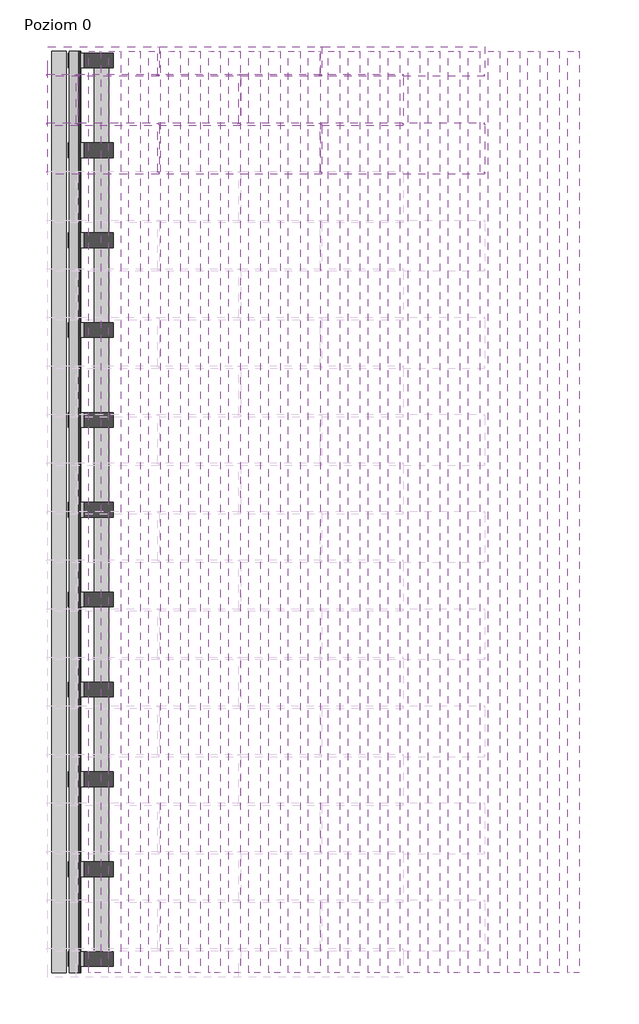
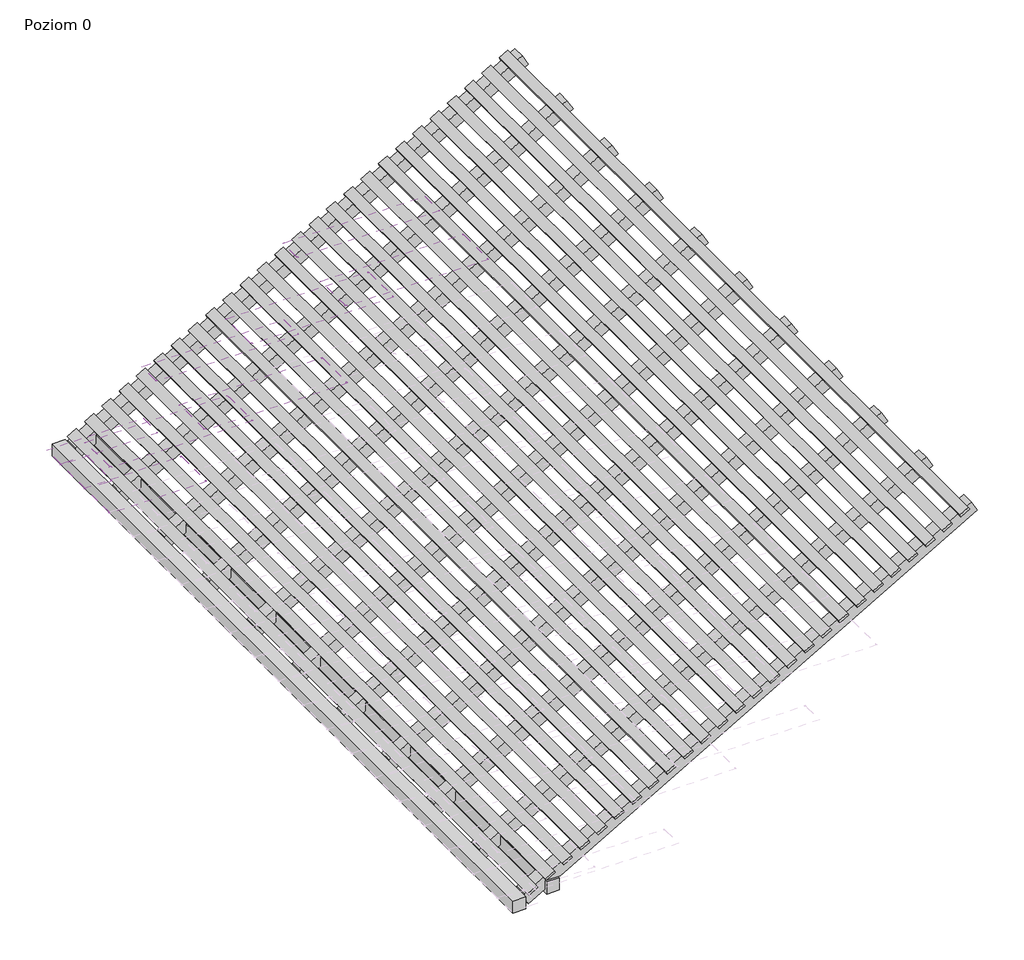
# One storey, part 4 of 4: 39 beams, 9 coverings.
"""IFC4 building model written with IfcOpenShell, lengths in millimetres."""

from ifc_helpers import new_model, si_unit, point, frame, frame_2d, origin, place, context, project, spatial, polyline, circle_curve, trimmed, segment, composite_curve, outline, extrude, transform, mapped, element, save
from components import beam_128x_30_c98de427, beam_160x_160_f767da69, beam_160x_160_39475e01, covering_053faf2b

model = new_model("IFC4")

# Units and contexts
model_context = context("Model", 3, world=origin())
ifc_project = project(units=[si_unit("LENGTHUNIT", "METRE", prefix="MILLI")], contexts=[model_context])

# Site, building, storey
site = spatial("IfcSite", under=ifc_project)
building = spatial("IfcBuilding", under=site)
storey = spatial("IfcBuildingStorey", under=building, Name="Poziom 0", Elevation=0.0)

# Beams
placement = place(None, origin())
beam_128x_30_shape = beam_128x_30_c98de427(model_context)
element("IfcBeam", 1, ObjectType="Belka drewniana : 128x 30", at=placement, inside=storey, context=model_context, shape_type="MappedRepresentation", body=[
    mapped(beam_128x_30_shape, transform((-4733.2671339, -3543.145213, 1161.4271033), x_axis=(0.0, -1.0, 0.0), y_axis=(0.5000000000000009, 0.0, -0.8660254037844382), z_axis=(0.8660254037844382, 0.0, 0.5000000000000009))),
])
element("IfcBeam", 2, ObjectType="Belka drewniana : 128x 30", at=placement, inside=storey, context=model_context, shape_type="MappedRepresentation", body=[
    mapped(beam_128x_30_shape, transform((-4516.7607829, -3543.145213, 1286.4271033), x_axis=(0.0, -1.0, 0.0), y_axis=(0.5000000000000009, 0.0, -0.8660254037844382), z_axis=(0.8660254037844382, 0.0, 0.5000000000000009))),
])
element("IfcBeam", 3, ObjectType="Belka drewniana : 128x 30", at=placement, inside=storey, context=model_context, shape_type="MappedRepresentation", body=[
    mapped(beam_128x_30_shape, transform((-4300.254432, -3543.145213, 1411.4271033), x_axis=(0.0, -1.0, 0.0), y_axis=(0.5000000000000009, 0.0, -0.8660254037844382), z_axis=(0.8660254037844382, 0.0, 0.5000000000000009))),
])
element("IfcBeam", 4, ObjectType="Belka drewniana : 128x 30", at=placement, inside=storey, context=model_context, shape_type="MappedRepresentation", body=[
    mapped(beam_128x_30_shape, transform((-4083.748081, -3543.145213, 1536.4271033), x_axis=(0.0, -1.0, 0.0), y_axis=(0.5000000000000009, 0.0, -0.8660254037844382), z_axis=(0.8660254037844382, 0.0, 0.5000000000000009))),
])
element("IfcBeam", 5, ObjectType="Belka drewniana : 128x 30", at=placement, inside=storey, context=model_context, shape_type="MappedRepresentation", body=[
    mapped(beam_128x_30_shape, transform((-3867.2417301, -3543.145213, 1661.4271033), x_axis=(0.0, -1.0, 0.0), y_axis=(0.5000000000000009, 0.0, -0.8660254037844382), z_axis=(0.8660254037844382, 0.0, 0.5000000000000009))),
])
element("IfcBeam", 6, ObjectType="Belka drewniana : 128x 30", at=placement, inside=storey, context=model_context, shape_type="MappedRepresentation", body=[
    mapped(beam_128x_30_shape, transform((-3650.7353791, -3543.145213, 1786.4271033), x_axis=(0.0, -1.0, 0.0), y_axis=(0.5000000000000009, 0.0, -0.8660254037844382), z_axis=(0.8660254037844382, 0.0, 0.5000000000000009))),
])
element("IfcBeam", 7, ObjectType="Belka drewniana : 128x 30", at=placement, inside=storey, context=model_context, shape_type="MappedRepresentation", body=[
    mapped(beam_128x_30_shape, transform((-3434.2290282, -3543.145213, 1911.4271033), x_axis=(0.0, -1.0, 0.0), y_axis=(0.5000000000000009, 0.0, -0.8660254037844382), z_axis=(0.8660254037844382, 0.0, 0.5000000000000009))),
])
element("IfcBeam", 8, ObjectType="Belka drewniana : 128x 30", at=placement, inside=storey, context=model_context, shape_type="MappedRepresentation", body=[
    mapped(beam_128x_30_shape, transform((-3217.7226773, -3543.145213, 2036.4271033), x_axis=(0.0, -1.0, 0.0), y_axis=(0.5000000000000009, 0.0, -0.8660254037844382), z_axis=(0.8660254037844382, 0.0, 0.5000000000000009))),
])
element("IfcBeam", 9, ObjectType="Belka drewniana : 128x 30", at=placement, inside=storey, context=model_context, shape_type="MappedRepresentation", body=[
    mapped(beam_128x_30_shape, transform((-3001.2163263, -3543.145213, 2161.4271033), x_axis=(0.0, -1.0, 0.0), y_axis=(0.5000000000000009, 0.0, -0.8660254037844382), z_axis=(0.8660254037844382, 0.0, 0.5000000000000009))),
])
element("IfcBeam", 10, ObjectType="Belka drewniana : 128x 30", at=placement, inside=storey, context=model_context, shape_type="MappedRepresentation", body=[
    mapped(beam_128x_30_shape, transform((-2784.7099754, -3543.145213, 2286.4271033), x_axis=(0.0, -1.0, 0.0), y_axis=(0.5000000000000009, 0.0, -0.8660254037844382), z_axis=(0.8660254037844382, 0.0, 0.5000000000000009))),
])
element("IfcBeam", 11, ObjectType="Belka drewniana : 128x 30", at=placement, inside=storey, context=model_context, shape_type="MappedRepresentation", body=[
    mapped(beam_128x_30_shape, transform((-2568.2036244, -3543.145213, 2411.4271033), x_axis=(0.0, -1.0, 0.0), y_axis=(0.5000000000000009, 0.0, -0.8660254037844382), z_axis=(0.8660254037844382, 0.0, 0.5000000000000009))),
])
element("IfcBeam", 12, ObjectType="Belka drewniana : 128x 30", at=placement, inside=storey, context=model_context, shape_type="MappedRepresentation", body=[
    mapped(beam_128x_30_shape, transform((-2351.6972735, -3543.145213, 2536.4271033), x_axis=(0.0, -1.0, 0.0), y_axis=(0.5000000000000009, 0.0, -0.8660254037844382), z_axis=(0.8660254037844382, 0.0, 0.5000000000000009))),
])
element("IfcBeam", 13, ObjectType="Belka drewniana : 128x 30", at=placement, inside=storey, context=model_context, shape_type="MappedRepresentation", body=[
    mapped(beam_128x_30_shape, transform((-2135.1909225, -3543.145213, 2661.4271033), x_axis=(0.0, -1.0, 0.0), y_axis=(0.5000000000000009, 0.0, -0.8660254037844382), z_axis=(0.8660254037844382, 0.0, 0.5000000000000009))),
])
element("IfcBeam", 14, ObjectType="Belka drewniana : 128x 30", at=placement, inside=storey, context=model_context, shape_type="MappedRepresentation", body=[
    mapped(beam_128x_30_shape, transform((-1918.6845716, -3543.145213, 2786.4271033), x_axis=(0.0, -1.0, 0.0), y_axis=(0.5000000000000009, 0.0, -0.8660254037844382), z_axis=(0.8660254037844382, 0.0, 0.5000000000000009))),
])
element("IfcBeam", 15, ObjectType="Belka drewniana : 128x 30", at=placement, inside=storey, context=model_context, shape_type="MappedRepresentation", body=[
    mapped(beam_128x_30_shape, transform((-1702.1782206, -3543.145213, 2911.4271033), x_axis=(0.0, -1.0, 0.0), y_axis=(0.5000000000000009, 0.0, -0.8660254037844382), z_axis=(0.8660254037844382, 0.0, 0.5000000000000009))),
])
element("IfcBeam", 16, ObjectType="Belka drewniana : 128x 30", at=placement, inside=storey, context=model_context, shape_type="MappedRepresentation", body=[
    mapped(beam_128x_30_shape, transform((-1485.6718697, -3543.145213, 3036.4271033), x_axis=(0.0, -1.0, 0.0), y_axis=(0.5000000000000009, 0.0, -0.8660254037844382), z_axis=(0.8660254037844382, 0.0, 0.5000000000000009))),
])
element("IfcBeam", 17, ObjectType="Belka drewniana : 128x 30", at=placement, inside=storey, context=model_context, shape_type="MappedRepresentation", body=[
    mapped(beam_128x_30_shape, transform((-1269.1655187, -3543.145213, 3161.4271033), x_axis=(0.0, -1.0, 0.0), y_axis=(0.5000000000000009, 0.0, -0.8660254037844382), z_axis=(0.8660254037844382, 0.0, 0.5000000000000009))),
])
element("IfcBeam", 18, ObjectType="Belka drewniana : 128x 30", at=placement, inside=storey, context=model_context, shape_type="MappedRepresentation", body=[
    mapped(beam_128x_30_shape, transform((-1052.6591678, -3543.145213, 3286.4271033), x_axis=(0.0, -1.0, 0.0), y_axis=(0.5000000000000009, 0.0, -0.8660254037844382), z_axis=(0.8660254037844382, 0.0, 0.5000000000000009))),
])
element("IfcBeam", 19, ObjectType="Belka drewniana : 128x 30", at=placement, inside=storey, context=model_context, shape_type="MappedRepresentation", body=[
    mapped(beam_128x_30_shape, transform((-836.1528168, -3543.145213, 3411.4271033), x_axis=(0.0, -1.0, 0.0), y_axis=(0.5000000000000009, 0.0, -0.8660254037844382), z_axis=(0.8660254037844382, 0.0, 0.5000000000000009))),
])
element("IfcBeam", 20, ObjectType="Belka drewniana : 128x 30", at=placement, inside=storey, context=model_context, shape_type="MappedRepresentation", body=[
    mapped(beam_128x_30_shape, transform((-619.6464659, -3543.145213, 3536.4271033), x_axis=(0.0, -1.0, 0.0), y_axis=(0.5000000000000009, 0.0, -0.8660254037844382), z_axis=(0.8660254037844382, 0.0, 0.5000000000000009))),
])
element("IfcBeam", 21, ObjectType="Belka drewniana : 128x 30", at=placement, inside=storey, context=model_context, shape_type="MappedRepresentation", body=[
    mapped(beam_128x_30_shape, transform((-403.140115, -3543.145213, 3661.4271033), x_axis=(0.0, -1.0, 0.0), y_axis=(0.5000000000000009, 0.0, -0.8660254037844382), z_axis=(0.8660254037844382, 0.0, 0.5000000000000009))),
])
element("IfcBeam", 22, ObjectType="Belka drewniana : 128x 30", at=placement, inside=storey, context=model_context, shape_type="MappedRepresentation", body=[
    mapped(beam_128x_30_shape, transform((-186.633764, -3543.145213, 3786.4271033), x_axis=(0.0, -1.0, 0.0), y_axis=(0.5000000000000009, 0.0, -0.8660254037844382), z_axis=(0.8660254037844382, 0.0, 0.5000000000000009))),
])
element("IfcBeam", 23, ObjectType="Belka drewniana : 128x 30", at=placement, inside=storey, context=model_context, shape_type="MappedRepresentation", body=[
    mapped(beam_128x_30_shape, transform((29.8725869, -3543.145213, 3911.4271033), x_axis=(0.0, -1.0, 0.0), y_axis=(0.5000000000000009, 0.0, -0.8660254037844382), z_axis=(0.8660254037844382, 0.0, 0.5000000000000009))),
])
element("IfcBeam", 24, ObjectType="Belka drewniana : 128x 30", at=placement, inside=storey, context=model_context, shape_type="MappedRepresentation", body=[
    mapped(beam_128x_30_shape, transform((246.3789379, -3543.145213, 4036.4271033), x_axis=(0.0, -1.0, 0.0), y_axis=(0.5000000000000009, 0.0, -0.8660254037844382), z_axis=(0.8660254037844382, 0.0, 0.5000000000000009))),
])
element("IfcBeam", 25, ObjectType="Belka drewniana : 128x 30", at=placement, inside=storey, context=model_context, shape_type="MappedRepresentation", body=[
    mapped(beam_128x_30_shape, transform((462.8852888, -3543.145213, 4161.4271033), x_axis=(0.0, -1.0, 0.0), y_axis=(0.5000000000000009, 0.0, -0.8660254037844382), z_axis=(0.8660254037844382, 0.0, 0.5000000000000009))),
])
element("IfcBeam", 26, ObjectType="Belka drewniana : 128x 30", at=placement, inside=storey, context=model_context, shape_type="MappedRepresentation", body=[
    mapped(beam_128x_30_shape, transform((679.3916398, -3543.145213, 4286.4271033), x_axis=(0.0, -1.0, 0.0), y_axis=(0.5000000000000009, 0.0, -0.8660254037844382), z_axis=(0.8660254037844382, 0.0, 0.5000000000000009))),
])
element("IfcBeam", 27, ObjectType="Belka drewniana : 160x 160", at=placement, inside=storey, context=model_context, shape_type="SweptSolid", body=[
    extrude(outline(polyline([(4200.0, 879.6955056), (4338.5640646, 799.6955056), (1102.9978213, -4804.469619), (1045.2627944, -4804.469619), (950.0, -4749.469619), (1069.2820323, -4542.8670786), (1180.0, -4542.8670786), (1180.0, -4351.0979332), (4200.0, 879.6955056)])), frame((0.0, -8582.2095918, 0.0), z_axis=(0.0, 1.0, 0.0), x_axis=(0.0, 0.0, 1.0)), (0.0, 0.0, 1.0), 160.0),
])
element("IfcBeam", 28, ObjectType="Belka drewniana : 160x 160", at=placement, inside=storey, context=model_context, shape_type="SweptSolid", body=[
    extrude(outline(polyline([(4200.0, 879.6955056), (4338.5640646, 799.6955056), (1102.9978213, -4804.469619), (1045.2627944, -4804.469619), (950.0, -4749.469619), (1069.2820323, -4542.8670786), (1180.0, -4542.8670786), (1180.0, -4351.0979332), (4200.0, 879.6955056)])), frame((0.0, -7607.1095918, 0.0), z_axis=(0.0, 1.0, 0.0), x_axis=(0.0, 0.0, 1.0)), (0.0, 0.0, 1.0), 160.0),
])
element("IfcBeam", 29, ObjectType="Belka drewniana : 160x 160", at=placement, inside=storey, context=model_context, shape_type="SweptSolid", body=[
    extrude(outline(polyline([(4200.0, 879.6955056), (4338.5640646, 799.6955056), (1102.9978213, -4804.469619), (1045.2627944, -4804.469619), (950.0, -4749.469619), (1069.2820323, -4542.8670786), (1180.0, -4542.8670786), (1180.0, -4351.0979332), (4200.0, 879.6955056)])), frame((0.0, -6632.0095918, 0.0), z_axis=(0.0, 1.0, 0.0), x_axis=(0.0, 0.0, 1.0)), (0.0, 0.0, 1.0), 160.0),
])
element("IfcBeam", 30, ObjectType="Belka drewniana : 160x 160", at=placement, inside=storey, context=model_context, shape_type="SweptSolid", body=[
    extrude(outline(polyline([(4200.0, 879.6955056), (4338.5640646, 799.6955056), (1102.9978213, -4804.469619), (1045.2627944, -4804.469619), (950.0, -4749.469619), (1069.2820323, -4542.8670786), (1180.0, -4542.8670786), (1180.0, -4351.0979332), (4200.0, 879.6955056)])), frame((0.0, -5656.9095918, 0.0), z_axis=(0.0, 1.0, 0.0), x_axis=(0.0, 0.0, 1.0)), (0.0, 0.0, 1.0), 160.0),
])
element("IfcBeam", 31, ObjectType="Belka drewniana : 160x 160", at=placement, inside=storey, context=model_context, shape_type="SweptSolid", body=[
    extrude(outline(polyline([(4200.0, 879.6955056), (4338.5640646, 799.6955056), (1102.9978213, -4804.469619), (1045.2627944, -4804.469619), (950.0, -4749.469619), (1069.2820323, -4542.8670786), (1180.0, -4542.8670786), (1180.0, -4351.0979332), (4200.0, 879.6955056)])), frame((0.0, -4681.8095918, 0.0), z_axis=(0.0, 1.0, 0.0), x_axis=(0.0, 0.0, 1.0)), (0.0, 0.0, 1.0), 160.0),
])
element("IfcBeam", 32, ObjectType="Belka drewniana : 160x 160", at=placement, inside=storey, context=model_context, shape_type="SweptSolid", body=[
    extrude(outline(polyline([(4200.0, 879.6955056), (4338.5640646, 799.6955056), (1102.9978213, -4804.469619), (1045.2627944, -4804.469619), (950.0, -4749.469619), (1069.2820323, -4542.8670786), (1180.0, -4542.8670786), (1180.0, -4351.0979332), (4200.0, 879.6955056)])), frame((0.0, -3706.7095918, 0.0), z_axis=(0.0, 1.0, 0.0), x_axis=(0.0, 0.0, 1.0)), (0.0, 0.0, 1.0), 160.0),
])
element("IfcBeam", 33, ObjectType="Belka drewniana : 160x 160", at=placement, inside=storey, context=model_context, shape_type="SweptSolid", body=[
    extrude(outline(polyline([(4200.0, 879.6955056), (4338.5640646, 799.6955056), (1102.9978213, -4804.469619), (1045.2627944, -4804.469619), (950.0, -4749.469619), (1069.2820323, -4542.8670786), (1180.0, -4542.8670786), (1180.0, -4351.0979332), (4200.0, 879.6955056)])), frame((0.0, -2731.6095918, 0.0), z_axis=(0.0, 1.0, 0.0), x_axis=(0.0, 0.0, 1.0)), (0.0, 0.0, 1.0), 160.0),
])
element("IfcBeam", 34, ObjectType="Belka drewniana : 160x 160", at=placement, inside=storey, context=model_context, shape_type="SweptSolid", body=[
    extrude(outline(polyline([(4200.0, 879.6955056), (4338.5640646, 799.6955056), (1102.9978213, -4804.469619), (1045.2627944, -4804.469619), (950.0, -4749.469619), (1069.2820323, -4542.8670786), (1180.0, -4542.8670786), (1180.0, -4351.0979332), (4200.0, 879.6955056)])), frame((0.0, -1756.5095918, 0.0), z_axis=(0.0, 1.0, 0.0), x_axis=(0.0, 0.0, 1.0)), (0.0, 0.0, 1.0), 160.0),
])
element("IfcBeam", 35, ObjectType="Belka drewniana : 160x 160", at=placement, inside=storey, context=model_context, shape_type="SweptSolid", body=[
    extrude(outline(polyline([(4200.0, 879.6955056), (4338.5640646, 799.6955056), (1102.9978213, -4804.469619), (1045.2627944, -4804.469619), (950.0, -4749.469619), (1069.2820323, -4542.8670786), (1180.0, -4542.8670786), (1180.0, -4351.0979332), (4200.0, 879.6955056)])), frame((0.0, -781.4095918, 0.0), z_axis=(0.0, 1.0, 0.0), x_axis=(0.0, 0.0, 1.0)), (0.0, 0.0, 1.0), 160.0),
])
element("IfcBeam", 36, ObjectType="Belka drewniana : 160x 160", at=placement, inside=storey, context=model_context, shape_type="SweptSolid", body=[
    extrude(outline(polyline([(4200.0, 879.6955056), (4338.5640646, 799.6955056), (1102.9978213, -4804.469619), (1045.2627944, -4804.469619), (950.0, -4749.469619), (1069.2820323, -4542.8670786), (1180.0, -4542.8670786), (1180.0, -4351.0979332), (4200.0, 879.6955056)])), frame((0.0, 193.6904082, 0.0), z_axis=(0.0, 1.0, 0.0), x_axis=(0.0, 0.0, 1.0)), (0.0, 0.0, 1.0), 160.0),
])
element("IfcBeam", 37, ObjectType="Belka drewniana : 160x 160", at=placement, inside=storey, context=model_context, shape_type="SweptSolid", body=[
    extrude(outline(polyline([(4200.0, 879.6955056), (4338.5640646, 799.6955056), (1102.9978213, -4804.469619), (1045.2627944, -4804.469619), (950.0, -4749.469619), (1069.2820323, -4542.8670786), (1180.0, -4542.8670786), (1180.0, -4351.0979332), (4200.0, 879.6955056)])), frame((0.0, 1168.7904082, 0.0), z_axis=(0.0, 1.0, 0.0), x_axis=(0.0, 0.0, 1.0)), (0.0, 0.0, 1.0), 160.0),
])
beam_160x_160_shape = beam_160x_160_f767da69(model_context)
element("IfcBeam", 38, ObjectType="Belka drewniana : 160x 160", at=placement, inside=storey, context=model_context, shape_type="MappedRepresentation", body=[
    mapped(beam_160x_160_shape, transform((-4442.8670786, -3651.2095918, 1080.0), x_axis=(0.0, 1.0, 0.0), y_axis=(-1.0, 0.0, 0.0), z_axis=(0.0, 0.0, 1.0))),
])
beam_160x_160_2_shape = beam_160x_160_39475e01(model_context)
element("IfcBeam", 39, ObjectType="Belka drewniana : 160x 160", at=placement, inside=storey, context=model_context, shape_type="MappedRepresentation", body=[
    mapped(beam_160x_160_2_shape, transform((-4904.469619, -3651.2095918, 1030.3720762), x_axis=(0.0, 1.0, 0.0), y_axis=(-1.0, 0.0, 0.0), z_axis=(0.0, 0.0, 1.0))),
])

# Coverings
element("IfcCovering", 40, ObjectType="Zintegrowany dach fotowoltaiczny FIT L.P (pojedynczy arkusz) : Zintegrowany dach fotowoltaiczny FIT L.P (pojedynczy arkusz)", at=placement, inside=storey, context=model_context, shape_type="SweptSolid", body=[
    extrude(outline(composite_curve([segment(polyline([(288.0882052, -764.3254516), (270.8006701, -764.3254516)]), True, "CONTINUOUS"), segment(trimmed(circle_curve(frame_2d((270.8006701, -767.1254516)), 2.8), [point((270.8006701, -764.3254516))], [point((268.0006701, -767.1254516))], True, "CARTESIAN"), True, "CONTINUOUS"), segment(polyline([(268.0006701, -767.1254516), (268.0006701, -784.9194843)]), True, "CONTINUOUS"), segment(trimmed(circle_curve(frame_2d((266.3873432, -784.7092324)), 1.6269694), [point((268.0006701, -784.9194843))], [point((264.9716419, -785.5109926))], False, "CARTESIAN"), True, "CONTINUOUS"), segment(polyline([(264.9716419, -785.5109926), (259.5147607, -772.9478756)]), True, "CONTINUOUS"), segment(trimmed(circle_curve(frame_2d((261.4782052, -771.7500084)), 2.3), [point((259.5147607, -772.9478756))], [point((260.424286, -769.705686))], False, "CARTESIAN"), True, "CONTINUOUS"), segment(polyline([(260.424286, -769.705686), (262.0969852, -769.0301624)]), True, "CONTINUOUS"), segment(trimmed(circle_curve(frame_2d((261.7598094, -768.195264)), 0.9004126), [point((262.0969852, -769.0301624))], [point((262.5492444, -767.7622108))], True, "CARTESIAN"), True, "CONTINUOUS"), segment(polyline([(262.5492444, -767.7622108), (260.6639723, -764.3254516), (-231.6728378, -764.3254516), (-233.6728378, -766.3254516), (-256.2638552, -766.3254516)]), True, "CONTINUOUS"), segment(trimmed(circle_curve(frame_2d((-256.2638552, -767.1498016)), 0.82435), [point((-256.2638552, -766.3254516))], [point((-257.0882052, -767.1498016))], True, "CARTESIAN"), True, "CONTINUOUS"), segment(polyline([(-257.0882052, -767.1498016), (-257.0882052, -785.8254516)]), True, "CONTINUOUS"), segment(trimmed(circle_curve(frame_2d((-259.0882052, -785.8254516)), 2.0), [point((-257.0882052, -785.8254516))], [point((-259.0882052, -787.8254516))], False, "CARTESIAN"), True, "CONTINUOUS"), segment(polyline([(-259.0882052, -787.8254516), (-267.9117948, -787.8254516)]), True, "CONTINUOUS"), segment(trimmed(circle_curve(frame_2d((-267.9117948, -785.8254516)), 2.0), [point((-267.9117948, -787.8254516))], [point((-269.9117948, -785.8254516))], False, "CARTESIAN"), True, "CONTINUOUS"), segment(polyline([(-269.9117948, -785.8254516), (-269.9117948, -771.7500084)]), True, "CONTINUOUS"), segment(trimmed(circle_curve(frame_2d((-266.1117948, -771.7500084)), 3.8), [point((-269.9117948, -771.7500084))], [point((-267.8014079, -768.3463036))], False, "CARTESIAN"), True, "CONTINUOUS"), segment(trimmed(circle_curve(frame_2d((-268.3170787, -767.3074911)), 1.1597619), [point((-267.8014079, -768.3463036))], [point((-267.171889, -767.1242207))], True, "CARTESIAN"), True, "CONTINUOUS"), segment(polyline([(-267.171889, -767.1242207), (-268.0083048, -765.5994754), (-267.1315567, -765.1185255), (-266.299575, -766.6351876)]), True, "CONTINUOUS"), segment(trimmed(circle_curve(frame_2d((-267.8170787, -767.3074911)), 1.6597619), [point((-266.299575, -766.6351876))], [point((-267.0790904, -768.7941595))], False, "CARTESIAN"), True, "CONTINUOUS"), segment(trimmed(circle_curve(frame_2d((-265.6117948, -771.7500084)), 3.3), [point((-267.0790904, -768.7941595))], [point((-268.9117948, -771.7500084))], True, "CARTESIAN"), True, "CONTINUOUS"), segment(polyline([(-268.9117948, -771.7500084), (-268.9117948, -785.3254516)]), True, "CONTINUOUS"), segment(trimmed(circle_curve(frame_2d((-267.4117948, -785.3254516)), 1.5), [point((-268.9117948, -785.3254516))], [point((-267.4117948, -786.8254516))], True, "CARTESIAN"), True, "CONTINUOUS"), segment(polyline([(-267.4117948, -786.8254516), (-259.5882052, -786.8254516)]), True, "CONTINUOUS"), segment(trimmed(circle_curve(frame_2d((-259.5882052, -785.3254516)), 1.5), [point((-259.5882052, -786.8254516))], [point((-258.0882052, -785.3254516))], True, "CARTESIAN"), True, "CONTINUOUS"), segment(polyline([(-258.0882052, -785.3254516), (-258.0882052, -767.0618312)]), True, "CONTINUOUS"), segment(trimmed(circle_curve(frame_2d((-256.2893299, -767.1254516)), 1.8), [point((-258.0882052, -767.0618312))], [point((-256.2893299, -765.3254516))], False, "CARTESIAN"), True, "CONTINUOUS"), segment(polyline([(-256.2893299, -765.3254516), (-234.0870514, -765.3254516), (-232.0870514, -763.3254516), (260.3034181, -763.3254516)]), True, "CONTINUOUS"), segment(trimmed(circle_curve(frame_2d((260.0800912, -765.3129437)), 2.0), [point((260.3034181, -763.3254516))], [point((261.7119395, -764.1566258))], False, "CARTESIAN"), True, "CONTINUOUS"), segment(polyline([(261.7119395, -764.1566258), (263.6966367, -767.774632)]), True, "CONTINUOUS"), segment(trimmed(circle_curve(frame_2d((262.4688276, -768.4481602)), 1.4004126), [point((263.6966367, -767.774632))], [point((262.9932374, -769.7466784))], False, "CARTESIAN"), True, "CONTINUOUS"), segment(polyline([(262.9932374, -769.7466784), (260.8475944, -770.6132015)]), True, "CONTINUOUS"), segment(trimmed(circle_curve(frame_2d((261.4782052, -771.7500084)), 1.3), [point((260.8475944, -770.6132015))], [point((260.4005072, -772.4770346))], True, "CARTESIAN"), True, "CONTINUOUS"), segment(polyline([(260.4005072, -772.4770346), (265.8628688, -785.0527688)]), True, "CONTINUOUS"), segment(trimmed(circle_curve(frame_2d((266.3873432, -784.7092324)), 0.6269694), [point((265.8628688, -785.0527688))], [point((267.0006701, -784.8393124))], True, "CARTESIAN"), True, "CONTINUOUS"), segment(polyline([(267.0006701, -784.8393124), (267.0006701, -767.1254516)]), True, "CONTINUOUS"), segment(trimmed(circle_curve(frame_2d((270.8006701, -767.1254516)), 3.8), [point((267.0006701, -767.1254516))], [point((270.8006701, -763.3254516))], False, "CARTESIAN"), True, "CONTINUOUS"), segment(polyline([(270.8006701, -763.3254516), (288.0882052, -763.3254516), (288.0882052, -764.3254516)]), True, "CONTINUOUS")], self_intersect=False)), frame((-4646.3009837, 301.2904082, 351.3905312), z_axis=(0.8660254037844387, 0.0, 0.5), x_axis=(0.0, -1.0, 0.0)), (0.0, 0.0, 1.0), 1396.4773133),
])
element("IfcCovering", 41, ObjectType="Zintegrowany dach fotowoltaiczny FIT L.P (pojedynczy arkusz) : Zintegrowany dach fotowoltaiczny FIT L.P (pojedynczy arkusz)", at=placement, inside=storey, context=model_context, shape_type="SweptSolid", body=[
    extrude(outline(composite_curve([segment(polyline([(288.0882052, -234.3179044), (270.8006701, -234.3179044)]), True, "CONTINUOUS"), segment(trimmed(circle_curve(frame_2d((270.8006701, -237.1179045)), 2.8), [point((270.8006701, -234.3179044))], [point((268.0006701, -237.1179045))], True, "CARTESIAN"), True, "CONTINUOUS"), segment(polyline([(268.0006701, -237.1179045), (268.0006701, -254.9119372)]), True, "CONTINUOUS"), segment(trimmed(circle_curve(frame_2d((266.3873432, -254.7016853)), 1.6269694), [point((268.0006701, -254.9119372))], [point((264.9716419, -255.5034454))], False, "CARTESIAN"), True, "CONTINUOUS"), segment(polyline([(264.9716419, -255.5034454), (259.5147607, -242.9403285)]), True, "CONTINUOUS"), segment(trimmed(circle_curve(frame_2d((261.4782052, -241.7424613)), 2.3), [point((259.5147607, -242.9403285))], [point((260.424286, -239.6981389))], False, "CARTESIAN"), True, "CONTINUOUS"), segment(polyline([(260.424286, -239.6981389), (262.0969852, -239.0226153)]), True, "CONTINUOUS"), segment(trimmed(circle_curve(frame_2d((261.7598094, -238.1877169)), 0.9004126), [point((262.0969852, -239.0226153))], [point((262.5492444, -237.7546636))], True, "CARTESIAN"), True, "CONTINUOUS"), segment(polyline([(262.5492444, -237.7546636), (260.6639723, -234.3179044), (-231.6728378, -234.3179044), (-233.6728378, -236.3179044), (-256.2638552, -236.3179044)]), True, "CONTINUOUS"), segment(trimmed(circle_curve(frame_2d((-256.2638552, -237.1422545)), 0.82435), [point((-256.2638552, -236.3179044))], [point((-257.0882052, -237.1422545))], True, "CARTESIAN"), True, "CONTINUOUS"), segment(polyline([(-257.0882052, -237.1422545), (-257.0882052, -255.8179044)]), True, "CONTINUOUS"), segment(trimmed(circle_curve(frame_2d((-259.0882052, -255.8179044)), 2.0), [point((-257.0882052, -255.8179044))], [point((-259.0882052, -257.8179044))], False, "CARTESIAN"), True, "CONTINUOUS"), segment(polyline([(-259.0882052, -257.8179044), (-267.9117948, -257.8179044)]), True, "CONTINUOUS"), segment(trimmed(circle_curve(frame_2d((-267.9117948, -255.8179044)), 2.0), [point((-267.9117948, -257.8179044))], [point((-269.9117948, -255.8179044))], False, "CARTESIAN"), True, "CONTINUOUS"), segment(polyline([(-269.9117948, -255.8179044), (-269.9117948, -241.7424613)]), True, "CONTINUOUS"), segment(trimmed(circle_curve(frame_2d((-266.1117948, -241.7424613)), 3.8), [point((-269.9117948, -241.7424613))], [point((-267.8014079, -238.3387564))], False, "CARTESIAN"), True, "CONTINUOUS"), segment(trimmed(circle_curve(frame_2d((-268.3170787, -237.2999439)), 1.1597619), [point((-267.8014079, -238.3387564))], [point((-267.171889, -237.1166736))], True, "CARTESIAN"), True, "CONTINUOUS"), segment(polyline([(-267.171889, -237.1166736), (-268.0083048, -235.5919282), (-267.1315567, -235.1109783), (-266.299575, -236.6276405)]), True, "CONTINUOUS"), segment(trimmed(circle_curve(frame_2d((-267.8170787, -237.2999439)), 1.6597619), [point((-266.299575, -236.6276405))], [point((-267.0790904, -238.7866123))], False, "CARTESIAN"), True, "CONTINUOUS"), segment(trimmed(circle_curve(frame_2d((-265.6117948, -241.7424613)), 3.3), [point((-267.0790904, -238.7866123))], [point((-268.9117948, -241.7424613))], True, "CARTESIAN"), True, "CONTINUOUS"), segment(polyline([(-268.9117948, -241.7424613), (-268.9117948, -255.3179044)]), True, "CONTINUOUS"), segment(trimmed(circle_curve(frame_2d((-267.4117948, -255.3179044)), 1.5), [point((-268.9117948, -255.3179044))], [point((-267.4117948, -256.8179044))], True, "CARTESIAN"), True, "CONTINUOUS"), segment(polyline([(-267.4117948, -256.8179044), (-259.5882052, -256.8179044)]), True, "CONTINUOUS"), segment(trimmed(circle_curve(frame_2d((-259.5882052, -255.3179044)), 1.5), [point((-259.5882052, -256.8179044))], [point((-258.0882052, -255.3179044))], True, "CARTESIAN"), True, "CONTINUOUS"), segment(polyline([(-258.0882052, -255.3179044), (-258.0882052, -237.0542841)]), True, "CONTINUOUS"), segment(trimmed(circle_curve(frame_2d((-256.2893299, -237.1179045)), 1.8), [point((-258.0882052, -237.0542841))], [point((-256.2893299, -235.3179044))], False, "CARTESIAN"), True, "CONTINUOUS"), segment(polyline([(-256.2893299, -235.3179044), (-234.0870514, -235.3179044), (-232.0870514, -233.3179044), (260.3034181, -233.3179044)]), True, "CONTINUOUS"), segment(trimmed(circle_curve(frame_2d((260.0800912, -235.3053966)), 2.0), [point((260.3034181, -233.3179044))], [point((261.7119395, -234.1490787))], False, "CARTESIAN"), True, "CONTINUOUS"), segment(polyline([(261.7119395, -234.1490787), (263.6966367, -237.7670849)]), True, "CONTINUOUS"), segment(trimmed(circle_curve(frame_2d((262.4688276, -238.440613)), 1.4004126), [point((263.6966367, -237.7670849))], [point((262.9932374, -239.7391313))], False, "CARTESIAN"), True, "CONTINUOUS"), segment(polyline([(262.9932374, -239.7391313), (260.8475944, -240.6056544)]), True, "CONTINUOUS"), segment(trimmed(circle_curve(frame_2d((261.4782052, -241.7424613)), 1.3), [point((260.8475944, -240.6056544))], [point((260.4005072, -242.4694875))], True, "CARTESIAN"), True, "CONTINUOUS"), segment(polyline([(260.4005072, -242.4694875), (265.8628688, -255.0452217)]), True, "CONTINUOUS"), segment(trimmed(circle_curve(frame_2d((266.3873432, -254.7016853)), 0.6269694), [point((265.8628688, -255.0452217))], [point((267.0006701, -254.8317652))], True, "CARTESIAN"), True, "CONTINUOUS"), segment(polyline([(267.0006701, -254.8317652), (267.0006701, -237.1179045)]), True, "CONTINUOUS"), segment(trimmed(circle_curve(frame_2d((270.8006701, -237.1179045)), 3.8), [point((267.0006701, -237.1179045))], [point((270.8006701, -233.3179044))], False, "CARTESIAN"), True, "CONTINUOUS"), segment(polyline([(270.8006701, -233.3179044), (288.0882052, -233.3179044), (288.0882052, -234.3179044)]), True, "CONTINUOUS")], self_intersect=False)), frame((-4911.3047573, 828.2904082, 810.3905312), z_axis=(0.8660254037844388, 0.0, 0.4999999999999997), x_axis=(0.0, -1.0, 0.0)), (0.0, 0.0, 1.0), 376.4773133),
])
element("IfcCovering", 42, ObjectType="Zintegrowany dach fotowoltaiczny FIT L.P (pojedynczy arkusz) : Zintegrowany dach fotowoltaiczny FIT L.P (pojedynczy arkusz)", at=placement, inside=storey, context=model_context, shape_type="SweptSolid", body=[
    extrude(outline(composite_curve([segment(polyline([(-186.995, -764.3254516), (-186.995, -763.3254516), (117.6084181, -763.3254516)]), True, "CONTINUOUS"), segment(trimmed(circle_curve(frame_2d((117.3850912, -765.3129437)), 2.0), [point((117.6084181, -763.3254516))], [point((119.0169395, -764.1566258))], False, "CARTESIAN"), True, "CONTINUOUS"), segment(polyline([(119.0169395, -764.1566258), (121.0016367, -767.774632)]), True, "CONTINUOUS"), segment(trimmed(circle_curve(frame_2d((119.7738276, -768.4481602)), 1.4004126), [point((121.0016367, -767.774632))], [point((120.2982374, -769.7466784))], False, "CARTESIAN"), True, "CONTINUOUS"), segment(polyline([(120.2982374, -769.7466784), (118.1525944, -770.6132015)]), True, "CONTINUOUS"), segment(trimmed(circle_curve(frame_2d((118.7832052, -771.7500084)), 1.3), [point((118.1525944, -770.6132015))], [point((117.7055072, -772.4770346))], True, "CARTESIAN"), True, "CONTINUOUS"), segment(polyline([(117.7055072, -772.4770346), (123.1678688, -785.0527688)]), True, "CONTINUOUS"), segment(trimmed(circle_curve(frame_2d((123.6923432, -784.7092324)), 0.6269694), [point((123.1678688, -785.0527688))], [point((124.3056701, -784.8393124))], True, "CARTESIAN"), True, "CONTINUOUS"), segment(polyline([(124.3056701, -784.8393124), (124.3056701, -767.1254516)]), True, "CONTINUOUS"), segment(trimmed(circle_curve(frame_2d((128.1056701, -767.1254516)), 3.8), [point((124.3056701, -767.1254516))], [point((128.1056701, -763.3254516))], False, "CARTESIAN"), True, "CONTINUOUS"), segment(polyline([(128.1056701, -763.3254516), (136.195, -763.3254516), (136.195, -764.3254516), (128.1056701, -764.3254516)]), True, "CONTINUOUS"), segment(trimmed(circle_curve(frame_2d((128.1056701, -767.1254516)), 2.8), [point((128.1056701, -764.3254516))], [point((125.3056701, -767.1254516))], True, "CARTESIAN"), True, "CONTINUOUS"), segment(polyline([(125.3056701, -767.1254516), (125.3056701, -784.9194843)]), True, "CONTINUOUS"), segment(trimmed(circle_curve(frame_2d((123.6923432, -784.7092324)), 1.6269694), [point((125.3056701, -784.9194843))], [point((122.2766419, -785.5109926))], False, "CARTESIAN"), True, "CONTINUOUS"), segment(polyline([(122.2766419, -785.5109926), (116.8197607, -772.9478756)]), True, "CONTINUOUS"), segment(trimmed(circle_curve(frame_2d((118.7832052, -771.7500084)), 2.3), [point((116.8197607, -772.9478756))], [point((117.729286, -769.705686))], False, "CARTESIAN"), True, "CONTINUOUS"), segment(polyline([(117.729286, -769.705686), (119.4019852, -769.0301624)]), True, "CONTINUOUS"), segment(trimmed(circle_curve(frame_2d((119.0648094, -768.195264)), 0.9004126), [point((119.4019852, -769.0301624))], [point((119.8542444, -767.7622108))], True, "CARTESIAN"), True, "CONTINUOUS"), segment(polyline([(119.8542444, -767.7622108), (117.9689723, -764.3254516), (-186.995, -764.3254516)]), True, "CONTINUOUS")], self_intersect=False)), frame((-4646.3009837, 1212.5954082, 351.3905312), z_axis=(0.8660254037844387, 0.0, 0.49999999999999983), x_axis=(0.0, -1.0, 0.0)), (0.0, 0.0, 1.0), 1396.4773133),
])
element("IfcCovering", 43, ObjectType="Zintegrowany dach fotowoltaiczny FIT L.P (pojedynczy arkusz) : Zintegrowany dach fotowoltaiczny FIT L.P (pojedynczy arkusz)", at=placement, inside=storey, context=model_context, shape_type="SweptSolid", body=[
    extrude(outline(composite_curve([segment(trimmed(circle_curve(frame_2d((0.0, -2.8)), 2.8), [point((0.0, 0.0))], [point((-2.8, -2.8))], True, "CARTESIAN"), True, "CONTINUOUS"), segment(polyline([(-2.8, -2.8), (-2.8, -20.5940327)]), True, "CONTINUOUS"), segment(trimmed(circle_curve(frame_2d((-4.4133269, -20.3837808)), 1.6269694), [point((-2.8, -20.5940327))], [point((-5.8290282, -21.185541))], False, "CARTESIAN"), True, "CONTINUOUS"), segment(polyline([(-5.8290282, -21.185541), (-11.2859094, -8.622424)]), True, "CONTINUOUS"), segment(trimmed(circle_curve(frame_2d((-9.3224649, -7.4245569)), 2.3), [point((-11.2859094, -8.622424))], [point((-10.3763841, -5.3802344))], False, "CARTESIAN"), True, "CONTINUOUS"), segment(polyline([(-10.3763841, -5.3802344), (-8.7036849, -4.7047108)]), True, "CONTINUOUS"), segment(trimmed(circle_curve(frame_2d((-9.0408607, -3.8698124)), 0.9004126), [point((-8.7036849, -4.7047108))], [point((-8.2514257, -3.4367591))], True, "CARTESIAN"), True, "CONTINUOUS"), segment(polyline([(-8.2514257, -3.4367591), (-10.1366978, 0.0), (-315.1006701, 0.0), (-315.1006701, 1.0), (-10.497252, 1.0)]), True, "CONTINUOUS"), segment(trimmed(circle_curve(frame_2d((-10.7205789, -0.9874922)), 2.0), [point((-10.497252, 1.0))], [point((-9.0887306, 0.1688258))], False, "CARTESIAN"), True, "CONTINUOUS"), segment(polyline([(-9.0887306, 0.1688258), (-7.1040334, -3.4491804)]), True, "CONTINUOUS"), segment(trimmed(circle_curve(frame_2d((-8.3318425, -4.1227085)), 1.4004126), [point((-7.1040334, -3.4491804))], [point((-7.8074327, -5.4212269))], False, "CARTESIAN"), True, "CONTINUOUS"), segment(polyline([(-7.8074327, -5.4212269), (-9.9530757, -6.28775)]), True, "CONTINUOUS"), segment(trimmed(circle_curve(frame_2d((-9.3224649, -7.4245569)), 1.3), [point((-9.9530757, -6.28775))], [point((-10.4001629, -8.151583))], True, "CARTESIAN"), True, "CONTINUOUS"), segment(polyline([(-10.4001629, -8.151583), (-4.9378013, -20.7273172)]), True, "CONTINUOUS"), segment(trimmed(circle_curve(frame_2d((-4.4133269, -20.3837808)), 0.6269694), [point((-4.9378013, -20.7273172))], [point((-3.8, -20.5138607))], True, "CARTESIAN"), True, "CONTINUOUS"), segment(polyline([(-3.8, -20.5138607), (-3.8, -2.8)]), True, "CONTINUOUS"), segment(trimmed(circle_curve(frame_2d((0.0, -2.8)), 3.8), [point((-3.8, -2.8))], [point((0.0, 1.0))], False, "CARTESIAN"), True, "CONTINUOUS"), segment(polyline([(0.0, 1.0), (8.0893299, 1.0), (8.0893299, 0.0), (0.0, 0.0)]), True, "CONTINUOUS")], self_intersect=False)), frame((-3819.0788804, 1084.4897381, 1711.5544457), z_axis=(0.8660254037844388, 0.0, 0.4999999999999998), x_axis=(0.0, -1.0, 0.0)), (0.0, 0.0, 1.0), 2040.0),
    extrude(outline(composite_curve([segment(polyline([(28.1680323, -535.9799253), (40.9033235, -530.4482589)]), True, "CONTINUOUS"), segment(trimmed(circle_curve(frame_2d((41.6303496, -531.525957)), 1.3), [point((40.9033235, -530.4482589))], [point((42.7671565, -530.8953461))], False, "CARTESIAN"), True, "CONTINUOUS"), segment(polyline([(42.7671565, -530.8953461), (43.9725969, -533.8801997)]), True, "CONTINUOUS"), segment(trimmed(circle_curve(frame_2d((44.6041589, -533.6251419)), 0.6811204), [point((43.9725969, -533.8801997))], [point((44.9317436, -534.2223129))], True, "CARTESIAN"), True, "CONTINUOUS"), segment(polyline([(44.9317436, -534.2223129), (49.9999999, -531.442065), (49.9999999, -225.6117948), (50.9999999, -225.6117948), (50.9999999, -530.8500476)]), True, "CONTINUOUS"), segment(trimmed(circle_curve(frame_2d((48.9999999, -530.8500476)), 2.0), [point((50.9999999, -530.8500476))], [point((49.9618997, -532.6035438))], False, "CARTESIAN"), True, "CONTINUOUS"), segment(polyline([(49.9618997, -532.6035438), (45.1357072, -535.2510049)]), True, "CONTINUOUS"), segment(trimmed(circle_curve(frame_2d((44.462179, -534.0231958)), 1.4004126), [point((45.1357072, -535.2510049))], [point((43.1636607, -534.5476056))], False, "CARTESIAN"), True, "CONTINUOUS"), segment(polyline([(43.1636607, -534.5476056), (41.792464, -531.152314), (28.7259873, -536.8278332)]), True, "CONTINUOUS"), segment(trimmed(circle_curve(frame_2d((28.5207601, -536.3553487)), 0.5151308), [point((28.7259873, -536.8278332))], [point((28.1680323, -535.9799253))], False, "CARTESIAN"), True, "CONTINUOUS")], self_intersect=False)), frame((-3860.8993885, 1625.202203, 1743.9896904), z_axis=(0.8660254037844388, 0.0, 0.4999999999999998), x_axis=(0.4999999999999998, 0.0, -0.8660254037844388)), (0.0, 0.0, 1.0), 30.0),
])
element("IfcCovering", 44, ObjectType="Zintegrowany dach fotowoltaiczny FIT L.P (pojedynczy arkusz) : Zintegrowany dach fotowoltaiczny FIT L.P (pojedynczy arkusz)", at=placement, inside=storey, context=model_context, shape_type="SweptSolid", body=[
    extrude(outline(composite_curve([segment(trimmed(circle_curve(frame_2d((0.0, -2.8)), 2.8), [point((0.0, 0.0))], [point((-2.8, -2.8))], True, "CARTESIAN"), True, "CONTINUOUS"), segment(polyline([(-2.8, -2.8), (-2.8, -20.5940327)]), True, "CONTINUOUS"), segment(trimmed(circle_curve(frame_2d((-4.4133269, -20.3837808)), 1.6269694), [point((-2.8, -20.5940327))], [point((-5.8290282, -21.185541))], False, "CARTESIAN"), True, "CONTINUOUS"), segment(polyline([(-5.8290282, -21.185541), (-11.2859094, -8.622424)]), True, "CONTINUOUS"), segment(trimmed(circle_curve(frame_2d((-9.3224649, -7.4245569)), 2.3), [point((-11.2859094, -8.622424))], [point((-10.3763841, -5.3802344))], False, "CARTESIAN"), True, "CONTINUOUS"), segment(polyline([(-10.3763841, -5.3802344), (-8.7036849, -4.7047108)]), True, "CONTINUOUS"), segment(trimmed(circle_curve(frame_2d((-9.0408607, -3.8698124)), 0.9004126), [point((-8.7036849, -4.7047108))], [point((-8.2514257, -3.4367591))], True, "CARTESIAN"), True, "CONTINUOUS"), segment(polyline([(-8.2514257, -3.4367591), (-10.1366978, 0.0), (-315.1006701, 0.0), (-315.1006701, 1.0), (-10.497252, 1.0)]), True, "CONTINUOUS"), segment(trimmed(circle_curve(frame_2d((-10.7205789, -0.9874922)), 2.0), [point((-10.497252, 1.0))], [point((-9.0887306, 0.1688258))], False, "CARTESIAN"), True, "CONTINUOUS"), segment(polyline([(-9.0887306, 0.1688258), (-7.1040334, -3.4491804)]), True, "CONTINUOUS"), segment(trimmed(circle_curve(frame_2d((-8.3318425, -4.1227085)), 1.4004126), [point((-7.1040334, -3.4491804))], [point((-7.8074327, -5.4212269))], False, "CARTESIAN"), True, "CONTINUOUS"), segment(polyline([(-7.8074327, -5.4212269), (-9.9530757, -6.28775)]), True, "CONTINUOUS"), segment(trimmed(circle_curve(frame_2d((-9.3224649, -7.4245569)), 1.3), [point((-9.9530757, -6.28775))], [point((-10.4001629, -8.151583))], True, "CARTESIAN"), True, "CONTINUOUS"), segment(polyline([(-10.4001629, -8.151583), (-4.9378013, -20.7273172)]), True, "CONTINUOUS"), segment(trimmed(circle_curve(frame_2d((-4.4133269, -20.3837808)), 0.6269694), [point((-4.9378013, -20.7273172))], [point((-3.8, -20.5138607))], True, "CARTESIAN"), True, "CONTINUOUS"), segment(polyline([(-3.8, -20.5138607), (-3.8, -2.8)]), True, "CONTINUOUS"), segment(trimmed(circle_curve(frame_2d((0.0, -2.8)), 3.8), [point((-3.8, -2.8))], [point((0.0, 1.0))], False, "CARTESIAN"), True, "CONTINUOUS"), segment(polyline([(0.0, 1.0), (8.0893299, 1.0), (8.0893299, 0.0), (0.0, 0.0)]), True, "CONTINUOUS")], self_intersect=False)), frame((-2052.3870567, 1084.4897381, 2731.5544457), z_axis=(0.8660254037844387, 0.0, 0.49999999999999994), x_axis=(0.0, -1.0, 0.0)), (0.0, 0.0, 1.0), 2040.0),
    extrude(outline(composite_curve([segment(polyline([(28.1680322, -535.9799253), (40.9033234, -530.4482589)]), True, "CONTINUOUS"), segment(trimmed(circle_curve(frame_2d((41.6303496, -531.525957)), 1.3), [point((40.9033234, -530.4482589))], [point((42.7671565, -530.8953461))], False, "CARTESIAN"), True, "CONTINUOUS"), segment(polyline([(42.7671565, -530.8953461), (43.9725969, -533.8801997)]), True, "CONTINUOUS"), segment(trimmed(circle_curve(frame_2d((44.6041589, -533.6251419)), 0.6811204), [point((43.9725969, -533.8801997))], [point((44.9317436, -534.2223129))], True, "CARTESIAN"), True, "CONTINUOUS"), segment(polyline([(44.9317436, -534.2223129), (49.9999999, -531.442065), (49.9999999, -225.6117948), (50.9999999, -225.6117948), (50.9999999, -530.8500476)]), True, "CONTINUOUS"), segment(trimmed(circle_curve(frame_2d((48.9999999, -530.8500476)), 2.0), [point((50.9999999, -530.8500476))], [point((49.9618996, -532.6035438))], False, "CARTESIAN"), True, "CONTINUOUS"), segment(polyline([(49.9618996, -532.6035438), (45.1357072, -535.2510049)]), True, "CONTINUOUS"), segment(trimmed(circle_curve(frame_2d((44.462179, -534.0231958)), 1.4004126), [point((45.1357072, -535.2510049))], [point((43.1636607, -534.5476056))], False, "CARTESIAN"), True, "CONTINUOUS"), segment(polyline([(43.1636607, -534.5476056), (41.792464, -531.152314), (28.7259872, -536.8278332)]), True, "CONTINUOUS"), segment(trimmed(circle_curve(frame_2d((28.5207601, -536.3553487)), 0.5151308), [point((28.7259872, -536.8278332))], [point((28.1680322, -535.9799253))], False, "CARTESIAN"), True, "CONTINUOUS")], self_intersect=False)), frame((-2094.2075647, 1625.202203, 2763.9896904), z_axis=(0.8660254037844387, 0.0, 0.49999999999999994), x_axis=(0.49999999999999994, 0.0, -0.8660254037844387)), (0.0, 0.0, 1.0), 30.0),
])
covering_shape = covering_053faf2b(model_context)
element("IfcCovering", 45, ObjectType="Zintegrowany dach fotowoltaiczny FIT VOLT (pojedynczy arkusz) : Zintegrowany dach fotowoltaiczny FIT VOLT (pojedynczy arkusz)", at=placement, inside=storey, context=model_context, shape_type="MappedRepresentation", body=[
    mapped(covering_shape, transform((-2463.2491235, 37.7904082, 2493.1884203), x_axis=(0.8660254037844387, 0.0, 0.4999999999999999), y_axis=(0.0, 1.0, 0.0), z_axis=(-0.4999999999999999, 0.0, 0.8660254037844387))),
])
element("IfcCovering", 46, ObjectType="Zintegrowany dach fotowoltaiczny FIT VOLT (pojedynczy arkusz) : Zintegrowany dach fotowoltaiczny FIT VOLT (pojedynczy arkusz)", at=placement, inside=storey, context=model_context, shape_type="MappedRepresentation", body=[
    mapped(covering_shape, transform((-696.5572997, 37.7904082, 3513.1884203), x_axis=(0.8660254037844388, 0.0, 0.4999999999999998), y_axis=(0.0, 1.0, 0.0), z_axis=(-0.4999999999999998, 0.0, 0.8660254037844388))),
])
element("IfcCovering", 47, ObjectType="Zintegrowany dach fotowoltaiczny FIT VOLT (pojedynczy arkusz) : Zintegrowany dach fotowoltaiczny FIT VOLT (pojedynczy arkusz)", at=placement, inside=storey, context=model_context, shape_type="MappedRepresentation", body=[
    mapped(covering_shape, transform((-3346.5950353, 564.7904082, 1983.1884203), x_axis=(0.8660254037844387, 0.0, 0.49999999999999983), y_axis=(0.0, 1.0, 0.0), z_axis=(-0.49999999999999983, 0.0, 0.8660254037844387))),
])
element("IfcCovering", 48, ObjectType="Zintegrowany dach fotowoltaiczny FIT VOLT (pojedynczy arkusz) : Zintegrowany dach fotowoltaiczny FIT VOLT (pojedynczy arkusz)", at=placement, inside=storey, context=model_context, shape_type="MappedRepresentation", body=[
    mapped(covering_shape, transform((-1579.9032116, 564.7904082, 3003.1884203), x_axis=(0.8660254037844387, 0.0, 0.4999999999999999), y_axis=(0.0, 1.0, 0.0), z_axis=(-0.4999999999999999, 0.0, 0.8660254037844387))),
])

save(model, "model.ifc")
